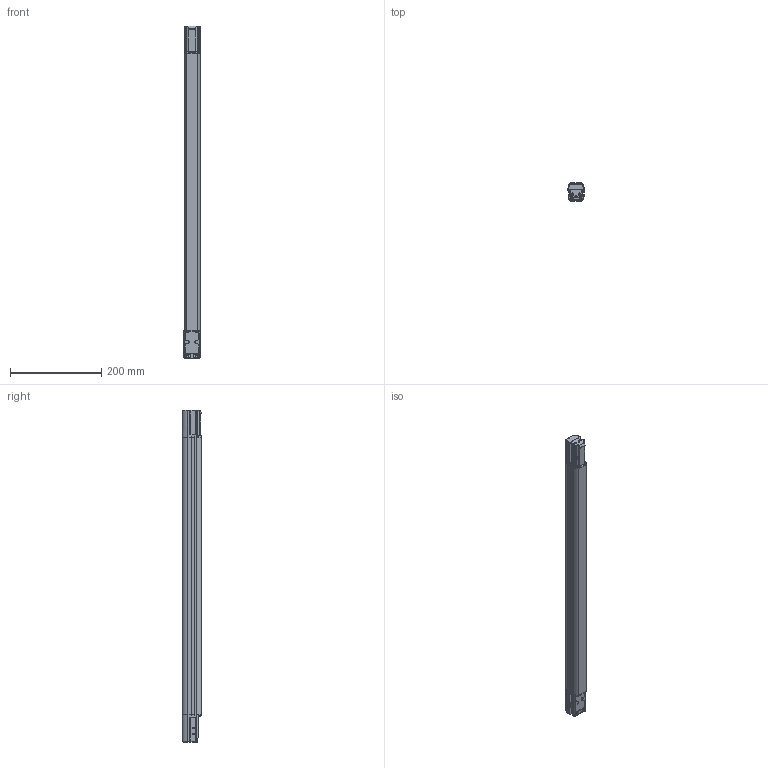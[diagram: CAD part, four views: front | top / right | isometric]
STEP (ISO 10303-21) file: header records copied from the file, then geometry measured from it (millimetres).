
FILE_DESCRIPTION(/* description */ (''),/* implementation_level */ '2;1');
FILE_NAME(/* name */ 'DSD-1132 SH4-2-0500 PASSIVE.stp',/* time_stamp */ '2023-05-18T15:38:30+02:00',/* author */ (''),/* organization */ (''),/* preprocessor_version */ 'ST-DEVELOPER v16.701',/* originating_system */ 'SIEMENS PLM Software NX 1946',/* authorisation */ '');
FILE_SCHEMA (('AUTOMOTIVE_DESIGN { 1 0 10303 214 3 1 1 1 }'));
Length unit declared in the file: millimetre
Products named in the file (1): FGut7EA8C0EDuh8z
Bounding box: 35.08 x 40 x 726 mm (x, y, z)
Volume: 836712.8 mm3; surface area: 177816.2 mm2
Topology: 6 solids, 11 shells, 891 faces, 2381 edges, 1502 vertices
Faces by surface type: plane 363, cylinder 315, bspline 92, cone 55, extrusion 24, sphere 22, torus 20
Full cylindrical faces by diameter (mm): 2.013 x4, 2.2 x4, 3 x4, 4.37 x4, 5 x8
Entity records: 35021 total; most frequent: CARTESIAN_POINT 13676, ORIENTED_EDGE 4482, DIRECTION 3861, EDGE_CURVE 2241, VERTEX_POINT 1468, AXIS2_PLACEMENT_3D 1343, VECTOR 1175, LINE 1151
